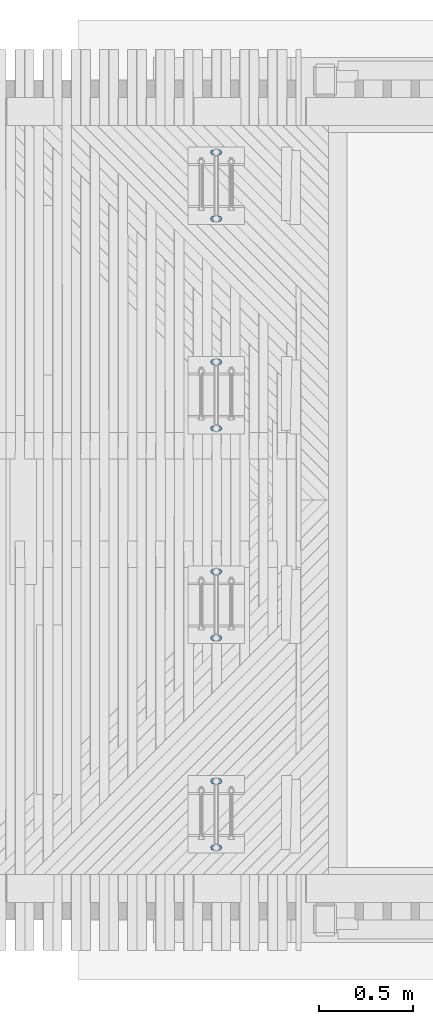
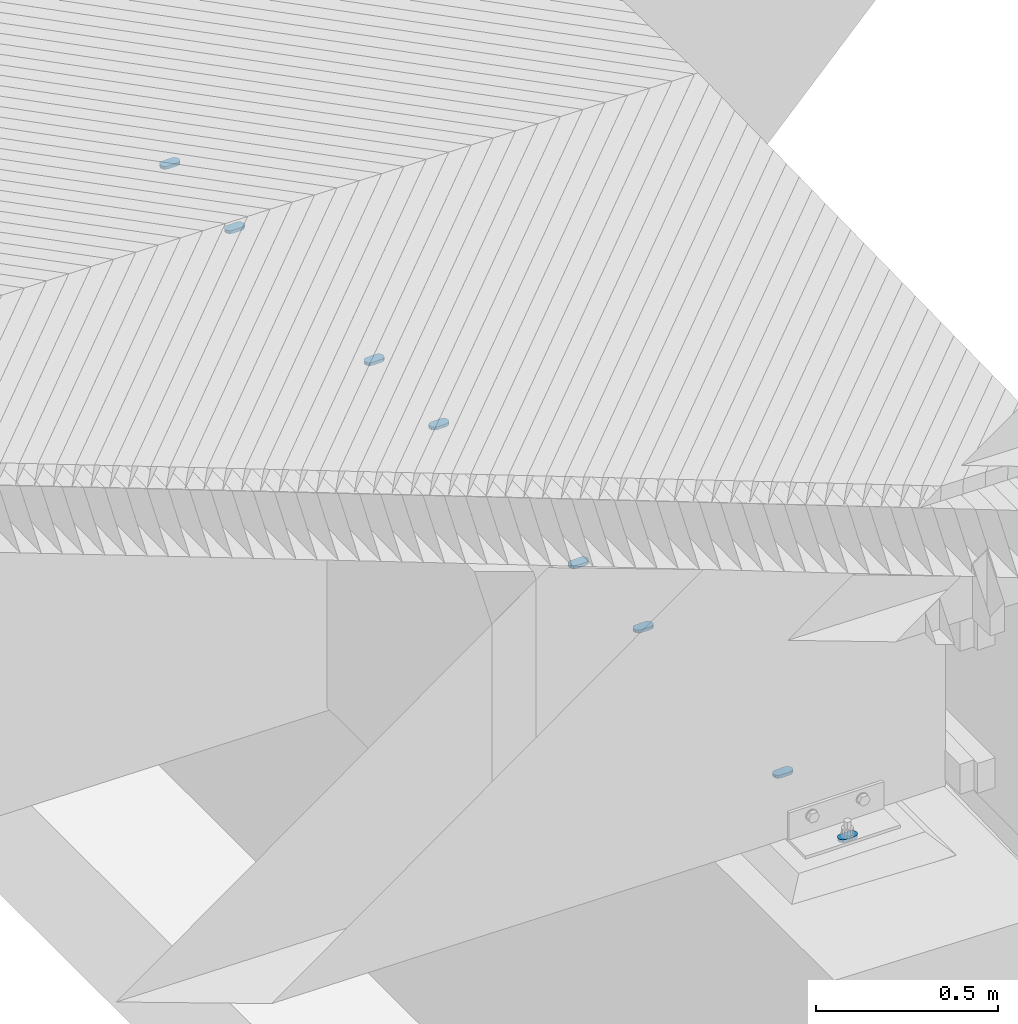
# One storey, part 5 of 47: 8 mechanical fasteners.
"""IFC2X3 building model written with IfcOpenShell, lengths in millimetres."""

from ifc_helpers import new_model, si_unit, frame, origin_with_axes, place, context, subcontext, project, spatial, faceted_brep, source, transform, mapped, material, type_object, element, save


model = new_model("IFC2X3")

# Units and contexts
model_context = context("Model", 3, precision=1e-05, world=origin_with_axes())
body_context = subcontext(model_context, "Body", "Model", "MODEL_VIEW")
ifc_project = project(units=[si_unit("LENGTHUNIT", "METRE", prefix="MILLI"), si_unit("AREAUNIT", "SQUARE_METRE"), si_unit("VOLUMEUNIT", "CUBIC_METRE"), si_unit("MASSUNIT", "GRAM", prefix="KILO"), si_unit("TIMEUNIT", "SECOND"), si_unit("PLANEANGLEUNIT", "RADIAN"), si_unit("SOLIDANGLEUNIT", "STERADIAN"), si_unit("THERMODYNAMICTEMPERATUREUNIT", "DEGREE_CELSIUS"), si_unit("LUMINOUSINTENSITYUNIT", "LUMEN")], contexts=[model_context])

# Site, building, storey
site_placement = place(None, origin_with_axes())
site = spatial("IfcSite", under=ifc_project, at=site_placement, Name="Undefined", CompositionType="ELEMENT")
building_placement = place(site_placement, origin_with_axes())
building = spatial("IfcBuilding", under=site, at=building_placement, Name="Undefined", CompositionType="ELEMENT")
storey_placement = place(building_placement, origin_with_axes())
storey = spatial("IfcBuildingStorey", under=building, at=storey_placement, Name="Undefined", CompositionType="ELEMENT", Elevation=0.0)

# Mechanical fasteners
ifc_material = material(Name="Undefined")
mechanical_fastener_type = type_object("IfcMechanicalFastenerType", Name="Bolt assembly")
shared_shape = source(origin_with_axes(), body_context, "Body", "Brep", [
    faceted_brep([(30.0, -9.99999999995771, 0.0), (28.8581929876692, -9.99999999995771, 5.7402514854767), (25.6066017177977, -9.99999999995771, 10.6066017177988), (20.7402514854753, -9.99999999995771, 13.8581929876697), (-15.0000000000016, -9.99999999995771, 15.0), (-22.5000000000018, -9.99999999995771, 12.9903810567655), (-27.9903810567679, -9.99999999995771, 7.49999999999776), (-30.0, -9.99999999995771, -3.10900794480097e-12), (-27.9903810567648, -9.99999999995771, -7.50000000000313), (-22.4999999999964, -9.99999999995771, -12.9903810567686), (-14.9999999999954, -9.99999999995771, -15.0), (15.0000000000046, -9.99999999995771, -15.0), (22.5000000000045, -9.99999999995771, -12.990381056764), (27.9903810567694, -9.99999999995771, -7.49999999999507), (30.0, 0.100000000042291, 0.0), (27.9903810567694, 0.100000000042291, -7.49999999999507), (22.5000000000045, 0.100000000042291, -12.990381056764), (15.0000000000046, 0.100000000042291, -15.0), (-14.9999999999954, 0.100000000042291, -15.0), (-22.4999999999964, 0.100000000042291, -12.9903810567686), (-27.9903810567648, 0.100000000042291, -7.50000000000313), (-30.0, 0.100000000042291, -3.10900794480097e-12), (-27.9903810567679, 0.100000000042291, 7.49999999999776), (-22.5000000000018, 0.100000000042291, 12.9903810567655), (-15.0000000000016, 0.100000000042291, 15.0), (20.7402514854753, 0.100000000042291, 13.8581929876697), (25.6066017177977, 0.100000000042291, 10.6066017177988), (28.8581929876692, 0.100000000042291, 5.7402514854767)], [[[0, 1, 2, 3, 4, 5, 6, 7, 8, 9, 10, 11, 12, 13]], [[14, 15, 16, 17, 18, 19, 20, 21, 22, 23, 24, 25, 26, 27]], [[0, 14, 27, 1]], [[1, 27, 26, 2]], [[2, 26, 25, 3]], [[3, 25, 24, 4]], [[4, 24, 23, 5]], [[5, 23, 22, 6]], [[6, 22, 21, 7]], [[7, 21, 20, 8]], [[8, 20, 19, 9]], [[9, 19, 18, 10]], [[10, 18, 17, 11]], [[11, 17, 16, 12]], [[12, 16, 15, 13]], [[13, 15, 14, 0]]]),
])
for number, where, z_axis, x_axis, name in (
    (1, (16000.0, 62747.5000000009, 2007.32999999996), (0.0, 1.0, 0.0), (-1.0, 0.0, 0.0), "Bolt assembly"),
    (2, (16000.0, 63102.5000000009, 2007.32999999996), (0.0, 1.0, 0.0), (-1.0, 0.0, 0.0), "Bolt assembly"),
    (3, (16000.0, 63867.5000000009, 1985.32999999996), (0.0, 1.0, 0.0), (-1.0, 0.0, 0.0), "Bolt assembly"),
    (4, (16000.0, 64222.5000000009, 1985.32999999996), (0.0, 1.0, 0.0), (-1.0, 0.0, 0.0), "Bolt assembly"),
    (5, (16000.0, 61982.5, 2007.32999999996), (0.0, 1.0, 0.0), (-1.0, 0.0, 0.0), "Bolt assembly"),
    (6, (16000.0, 61627.5, 2007.32999999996), (0.0, 1.0, 0.0), (-1.0, 0.0, 0.0), "Bolt assembly"),
    (7, (16000.0, 60862.5, 1985.32999999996), (0.0, 1.0, 0.0), (-1.0, 0.0, 0.0), "Bolt assembly"),
    (8, (16000.0, 60507.5, 1985.32999999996), (0.0, 1.0, 0.0), (-1.0, 0.0, 0.0), "Bolt assembly"),
):
    element("IfcMechanicalFastener", number, at=place(storey_placement, frame(where, z_axis=z_axis, x_axis=x_axis)), inside=storey, type_object=mechanical_fastener_type, material=ifc_material, Name=name, NominalDiameter=20.0, NominalLength=30.0, context=body_context, shape_type="MappedRepresentation", body=[
        mapped(shared_shape, transform((0.0, 0.0, 0.0))),
    ])

save(model, "model.ifc")
